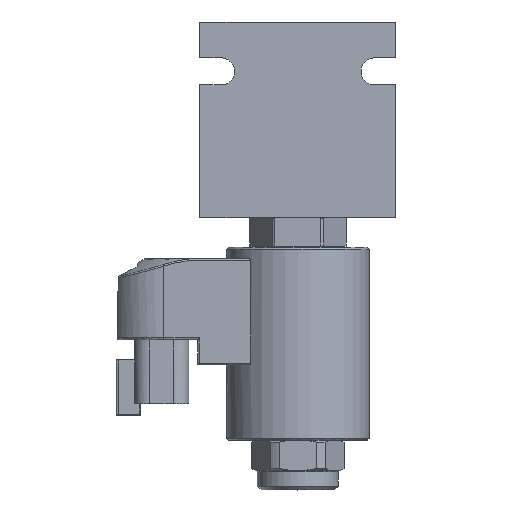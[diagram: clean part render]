
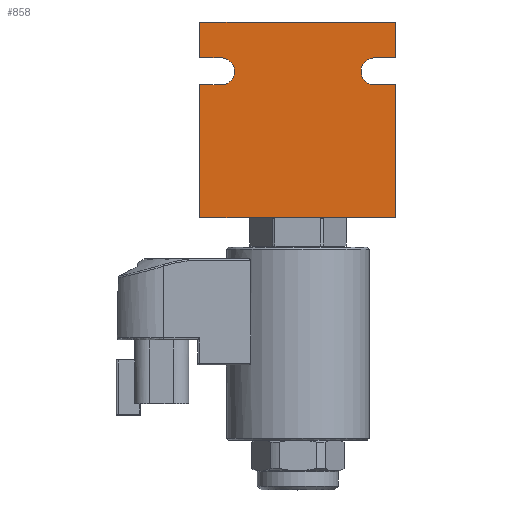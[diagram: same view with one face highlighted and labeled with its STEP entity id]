
A CAD part, left-side view. The second image highlights one B-rep face of the part: STEP entity #858.
In plain terms, the highlighted planar face has unit normal (-1, 0, 0).
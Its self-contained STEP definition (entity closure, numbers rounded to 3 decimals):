
#858 = ADVANCED_FACE( '', ( #1814 ), #1815, .F. );
#1814 = FACE_OUTER_BOUND( '', #2971, .T. );
#1815 = PLANE( '', #2972 );
#2971 = EDGE_LOOP( '', ( #5079, #5080, #5081, #5082, #5083, #5084, #5085, #5086, #5087, #5088, #5089, #5090 ) );
#2972 = AXIS2_PLACEMENT_3D( '', #5091, #5092, #5093 );
#5079 = ORIENTED_EDGE( '', *, *, #6550, .T. );
#5080 = ORIENTED_EDGE( '', *, *, #6963, .T. );
#5081 = ORIENTED_EDGE( '', *, *, #6964, .F. );
#5082 = ORIENTED_EDGE( '', *, *, #6106, .F. );
#5083 = ORIENTED_EDGE( '', *, *, #6090, .T. );
#5084 = ORIENTED_EDGE( '', *, *, #6517, .F. );
#5085 = ORIENTED_EDGE( '', *, *, #6965, .F. );
#5086 = ORIENTED_EDGE( '', *, *, #6966, .F. );
#5087 = ORIENTED_EDGE( '', *, *, #6956, .T. );
#5088 = ORIENTED_EDGE( '', *, *, #6967, .T. );
#5089 = ORIENTED_EDGE( '', *, *, #6441, .F. );
#5090 = ORIENTED_EDGE( '', *, *, #6278, .T. );
#5091 = CARTESIAN_POINT( '', ( 0., -50.8, 50.8 ) );
#5092 = DIRECTION( '', ( 1., 0., 0. ) );
#5093 = DIRECTION( '', ( 0., 0., -1. ) );
#6090 = EDGE_CURVE( '', #7693, #7690, #7694, .T. );
#6106 = EDGE_CURVE( '', #7693, #7721, #7722, .T. );
#6278 = EDGE_CURVE( '', #8023, #8027, #8029, .T. );
#6441 = EDGE_CURVE( '', #8023, #8314, #8315, .T. );
#6517 = EDGE_CURVE( '', #8454, #7690, #8455, .T. );
#6550 = EDGE_CURVE( '', #8027, #8505, #8507, .T. );
#6956 = EDGE_CURVE( '', #9213, #9215, #9217, .T. );
#6963 = EDGE_CURVE( '', #8505, #9228, #9229, .T. );
#6964 = EDGE_CURVE( '', #7721, #9228, #9230, .T. );
#6965 = EDGE_CURVE( '', #9231, #8454, #9232, .F. );
#6966 = EDGE_CURVE( '', #9213, #9231, #9233, .T. );
#6967 = EDGE_CURVE( '', #9215, #8314, #9234, .T. );
#7690 = VERTEX_POINT( '', #11063 );
#7693 = VERTEX_POINT( '', #11067 );
#7694 = LINE( '', #11068, #11069 );
#7721 = VERTEX_POINT( '', #11137 );
#7722 = LINE( '', #11138, #11139 );
#8023 = VERTEX_POINT( '', #12161 );
#8027 = VERTEX_POINT( '', #12167 );
#8029 = LINE( '', #12170, #12171 );
#8314 = VERTEX_POINT( '', #13327 );
#8315 = LINE( '', #13328, #13329 );
#8454 = VERTEX_POINT( '', #13730 );
#8455 = LINE( '', #13731, #13732 );
#8505 = VERTEX_POINT( '', #13932 );
#8507 = CIRCLE( '', #13935, 3.5 );
#9213 = VERTEX_POINT( '', #16280 );
#9215 = VERTEX_POINT( '', #16283 );
#9217 = LINE( '', #16286, #16287 );
#9228 = VERTEX_POINT( '', #16312 );
#9229 = LINE( '', #16313, #16314 );
#9230 = LINE( '', #16315, #16316 );
#9231 = VERTEX_POINT( '', #16317 );
#9232 = CIRCLE( '', #16318, 3.5 );
#9233 = LINE( '', #16319, #16320 );
#9234 = LINE( '', #16321, #16322 );
#11063 = CARTESIAN_POINT( '', ( 0., -16.3, 50.8 ) );
#11067 = CARTESIAN_POINT( '', ( 0., -50.8, 50.8 ) );
#11068 = CARTESIAN_POINT( '', ( 0., -50.8, 50.8 ) );
#11069 = VECTOR( '', #18844, 1000. );
#11137 = CARTESIAN_POINT( '', ( 0., -50.8, 0. ) );
#11138 = CARTESIAN_POINT( '', ( 0., -50.8, 50.8 ) );
#11139 = VECTOR( '', #18863, 1000. );
#12161 = CARTESIAN_POINT( '', ( 0., -9.3, 0. ) );
#12167 = CARTESIAN_POINT( '', ( 0., -9.3, 5.5 ) );
#12170 = CARTESIAN_POINT( '', ( 0., -9.3, 50.8 ) );
#12171 = VECTOR( '', #19006, 1000. );
#13327 = CARTESIAN_POINT( '', ( 0., 0., 0. ) );
#13328 = CARTESIAN_POINT( '', ( 0., -50.8, 0. ) );
#13329 = VECTOR( '', #19127, 1000. );
#13730 = CARTESIAN_POINT( '', ( 0., -16.3, 45.3 ) );
#13731 = CARTESIAN_POINT( '', ( 0., -16.3, 50.8 ) );
#13732 = VECTOR( '', #19186, 1000. );
#13932 = CARTESIAN_POINT( '', ( 0., -16.3, 5.5 ) );
#13935 = AXIS2_PLACEMENT_3D( '', #19212, #19213, #19214 );
#16280 = CARTESIAN_POINT( '', ( 0., -9.3, 50.8 ) );
#16283 = CARTESIAN_POINT( '', ( 0., 0., 50.8 ) );
#16286 = CARTESIAN_POINT( '', ( 0., -50.8, 50.8 ) );
#16287 = VECTOR( '', #19551, 1000. );
#16312 = CARTESIAN_POINT( '', ( 0., -16.3, 0. ) );
#16313 = CARTESIAN_POINT( '', ( 0., -16.3, 50.8 ) );
#16314 = VECTOR( '', #19557, 1000. );
#16315 = CARTESIAN_POINT( '', ( 0., -50.8, 0. ) );
#16316 = VECTOR( '', #19558, 1000. );
#16317 = CARTESIAN_POINT( '', ( 0., -9.3, 45.3 ) );
#16318 = AXIS2_PLACEMENT_3D( '', #19559, #19560, #19561 );
#16319 = CARTESIAN_POINT( '', ( 0., -9.3, 50.8 ) );
#16320 = VECTOR( '', #19562, 1000. );
#16321 = CARTESIAN_POINT( '', ( 0., 0., 50.8 ) );
#16322 = VECTOR( '', #19563, 1000. );
#18844 = DIRECTION( '', ( 0., 1., 0. ) );
#18863 = DIRECTION( '', ( 0., 0., -1. ) );
#19006 = DIRECTION( '', ( 0., 0., 1. ) );
#19127 = DIRECTION( '', ( 0., 1., 0. ) );
#19186 = DIRECTION( '', ( 0., 0., 1. ) );
#19212 = CARTESIAN_POINT( '', ( 0., -12.8, 5.5 ) );
#19213 = DIRECTION( '', ( 1., 0., 0. ) );
#19214 = DIRECTION( '', ( 0., 0., -1. ) );
#19551 = DIRECTION( '', ( 0., 1., 0. ) );
#19557 = DIRECTION( '', ( 0., 0., -1. ) );
#19558 = DIRECTION( '', ( 0., 1., 0. ) );
#19559 = CARTESIAN_POINT( '', ( 0., -12.8, 45.3 ) );
#19560 = DIRECTION( '', ( 1., 0., 0. ) );
#19561 = DIRECTION( '', ( 0., 0., -1. ) );
#19562 = DIRECTION( '', ( 0., 0., -1. ) );
#19563 = DIRECTION( '', ( 0., 0., -1. ) );
